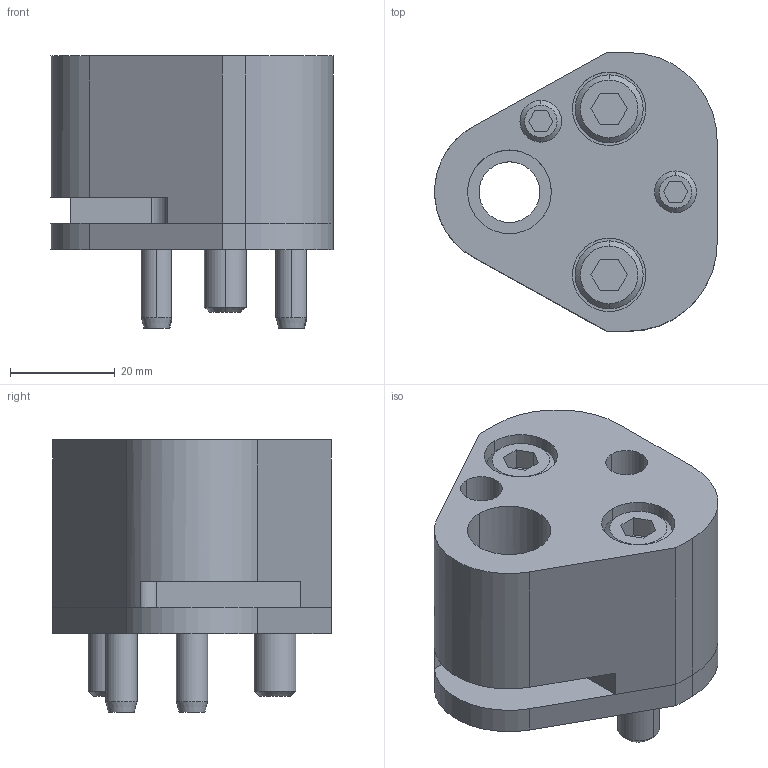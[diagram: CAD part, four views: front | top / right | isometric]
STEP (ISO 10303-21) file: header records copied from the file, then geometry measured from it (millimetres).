
FILE_DESCRIPTION(/* description */ (''),/* implementation_level */ '2;1');
FILE_NAME(/* name */ '3d_crn-fd16_03649_r00.stp',/* time_stamp */ '2011-01-10T14:16:22+09:00',/* author */ ('MISUMI'),/* organization */ (''),/* preprocessor_version */ 'ST-DEVELOPER v11',/* originating_system */ 'UGS - NX 5.0',/* authorisation */ '');
FILE_SCHEMA (('CONFIG_CONTROL_DESIGN'));
Length unit declared in the file: millimetre
Products named in the file (1): 3d_crn-fd16_03649_r00
Bounding box: 53.96 x 53.2 x 52 mm (x, y, z)
Volume: 68822.8 mm3; surface area: 24342.9 mm2
Topology: 8 solids, 8 shells, 156 faces, 358 edges, 231 vertices
Faces by surface type: plane 69, cylinder 61, cone 26
Entity records: 4585 total; most frequent: DIRECTION 815, CARTESIAN_POINT 805, ORIENTED_EDGE 716, EDGE_CURVE 358, AXIS2_PLACEMENT_3D 307, VERTEX_POINT 231, LINE 201, VECTOR 201
